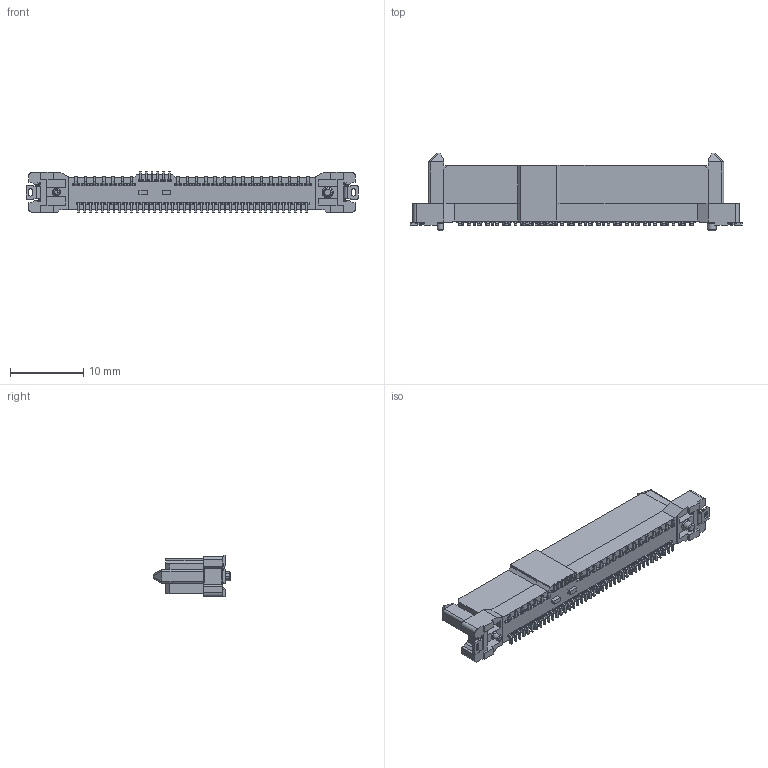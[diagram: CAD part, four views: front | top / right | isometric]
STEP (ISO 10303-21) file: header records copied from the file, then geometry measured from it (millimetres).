
FILE_DESCRIPTION((''),'2;1');
FILE_NAME('PSE068-3500-000-0H_3D','2026-07-13T19:50:52',('T10802169'),(''),'CREO PARAMETRIC BY PTC INC, 2019471','CREO PARAMETRIC BY PTC INC, 2019471','');
FILE_SCHEMA(('CONFIG_CONTROL_DESIGN'));
Products named in the file (1): PSE068-3500-000-0H_3D
Bounding box: 45.45 x 10.65 x 5.7 mm (x, y, z)
Volume: 1080.2 mm3; surface area: 1884.2 mm2
Topology: 1 solids, 1 shells, 3841 faces, 10344 edges, 6566 vertices
Faces by surface type: plane 2457, cylinder 1072, torus 272, cone 32, bspline 8
Entity records: 120100 total; most frequent: CARTESIAN_POINT 22991, ORIENTED_EDGE 20688, DIRECTION 19718, EDGE_CURVE 10344, VECTOR 7508, LINE 7508, VERTEX_POINT 6566, AXIS2_PLACEMENT_3D 6105
